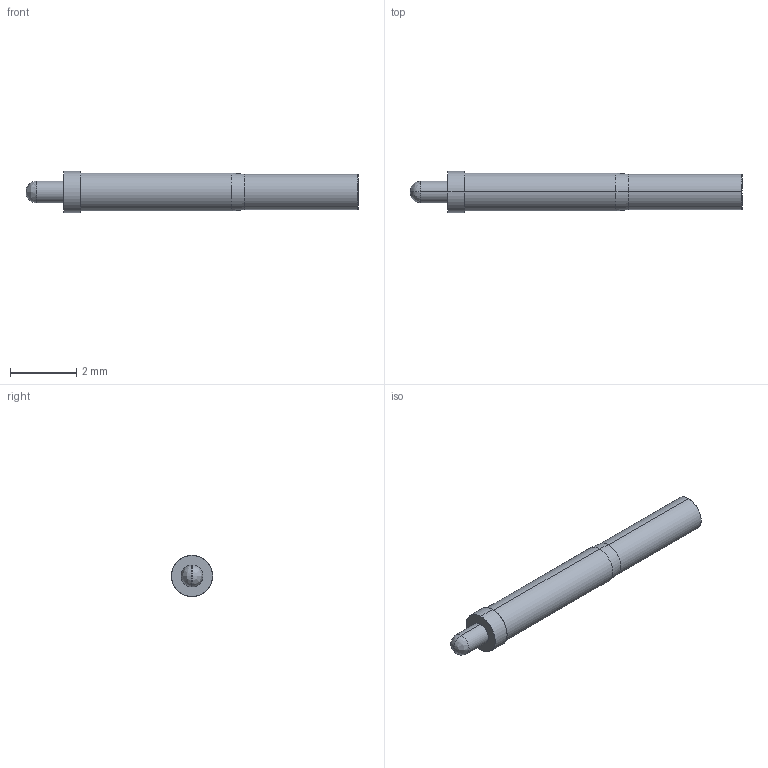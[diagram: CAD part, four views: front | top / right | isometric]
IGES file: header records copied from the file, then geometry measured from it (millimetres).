
Start section: SolidWorks IGES file using analytic representation for surfaces
Global section: file name: O:\PYLON\IGES FILES\C-S\C-S-R.IGS; native system: SolidWorks 2015; preprocessor: SolidWorks 2015; author: kgolden; date: 171024.080823; units: inch
Bounding box: 10.03 x 1.24 x 1.24 mm (x, y, z)
Surface area: 39.9 mm2 (no closed solid volume)
Topology: 0 solids, 0 shells, 19 faces, 176 edges, 176 vertices
Faces by surface type: revolution 12, bspline 7
